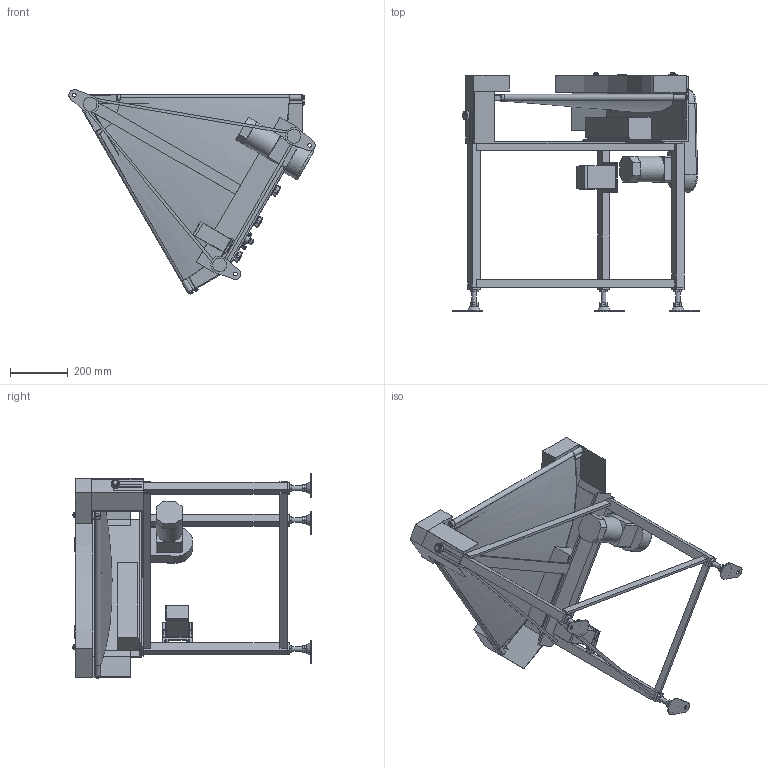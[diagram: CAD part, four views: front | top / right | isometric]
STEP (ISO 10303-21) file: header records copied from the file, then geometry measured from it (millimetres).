
FILE_DESCRIPTION (( 'STEP AP214' ), '1' );
FILE_NAME ('GBC60-UD500-R.STEP', '2022-12-05T23:43:02', ( '' ), ( '' ), 'SwSTEP 2.0', 'SolidWorks 2017', '' );
FILE_SCHEMA (( 'AUTOMOTIVE_DESIGN' ));
Length unit declared in the file: millimetre
Products named in the file (1): GBC60-UD500-R
Bounding box: 853.94 x 827.92 x 709.41 mm (x, y, z)
Volume: 17298305 mm3; surface area: 3611113 mm2
Topology: 56 solids, 56 shells, 920 faces, 2095 edges, 1345 vertices
Faces by surface type: plane 576, cylinder 185, cone 73, bspline 71, torus 8, sphere 7
Full cylindrical faces by diameter (mm): 4.2 x4, 4.5 x2, 5 x4, 6 x13, 6.4 x4, 7 x3, 8 x1, 9 x2, 10 x6, 12 x1, 12.2 x2, 12.5 x7, 13 x7, 15 x4, 16 x10, 18 x2, 18.4 x1, 20 x6, 21 x1, 22.2 x1, 25 x1, 30 x1, 89 x1
Entity records: 34352 total; most frequent: CARTESIAN_POINT 14133, ORIENTED_EDGE 3890, DIRECTION 3799, EDGE_CURVE 1945, VERTEX_POINT 1316, AXIS2_PLACEMENT_3D 1306, VECTOR 1187, LINE 1187
